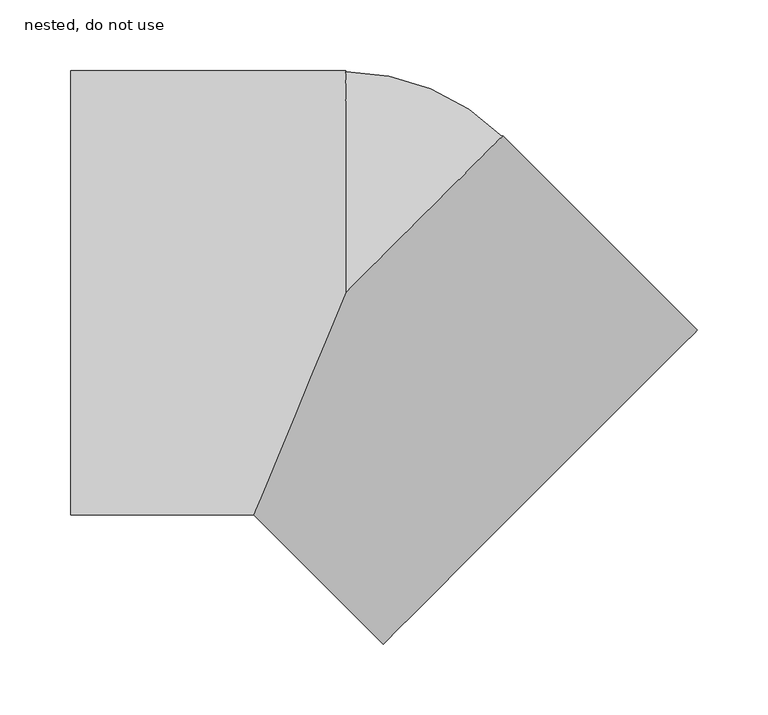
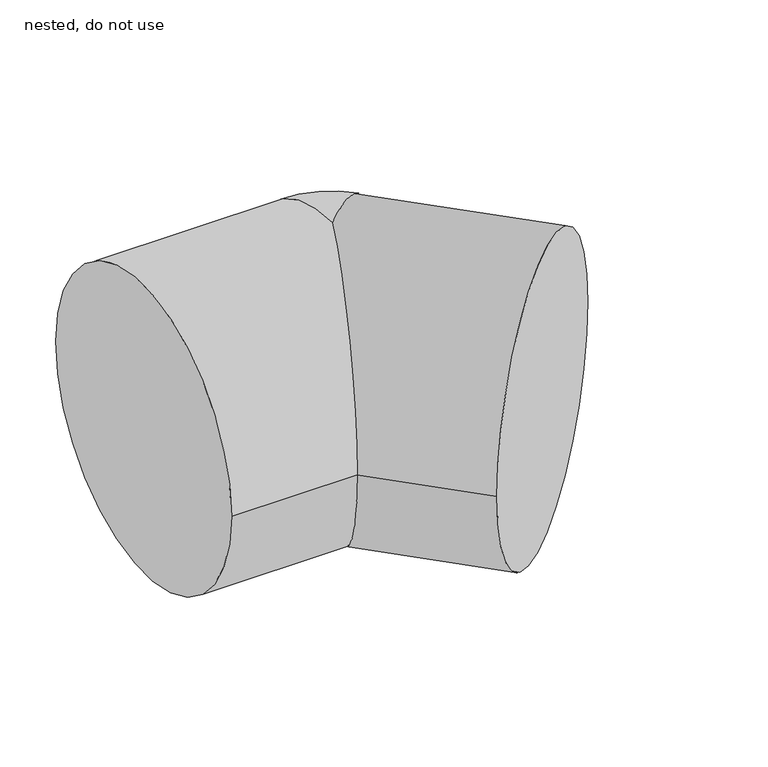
"""IFC4 building model written with IfcOpenShell, lengths in millimetres: pipe fitting geometry, NLRS_52_PIF_UN_HDPE elbow for branch assembly -SH_Akatherm : nested, do not use."""

import ifcopenshell
import ifcopenshell.guid

model = None  # the IFC model being written
_history = None  # IfcOwnerHistory: only IFC2X3 demands one
_inside = {}  # id of a spatial element -> (the spatial element, [elements in it])
_under = {}  # id of a project, library or spatial element -> (it, [spatial elements below it])
_declared = {}  # id of a project -> (the project, [libraries it declares])
_typed = {}  # id of a type object -> (the type object, [elements of that type])
_made_of = {}  # id of a material, layer set ... -> (it, [elements and type objects made of it])


def new_model(schema):
    """Start an empty IFC model of exactly this schema.

    Asked for "IFC4X3", IfcOpenShell would pick the latest addendum, in which some entities
    have other attributes; the version numbers below select the first issue.
    IFC2X3 requires an IfcOwnerHistory on every rooted entity: one is made here for all.
    """
    global model, _history
    if schema == "IFC4X3":
        model = ifcopenshell.file(schema_version=(4, 3, 0, 0))
    else:
        model = ifcopenshell.file(schema=schema)
    _inside.clear()
    _under.clear()
    _declared.clear()
    _typed.clear()
    _made_of.clear()
    _history = None
    if model.schema == "IFC2X3":
        org = make("IfcOrganization", Name="unknown")
        user = make(
            "IfcPersonAndOrganization",
            ThePerson=make("IfcPerson", FamilyName="unknown"),
            TheOrganization=org,
        )
        app = make(
            "IfcApplication",
            ApplicationDeveloper=org,
            Version="unknown",
            ApplicationFullName="unknown",
            ApplicationIdentifier="unknown",
        )
        _history = make(
            "IfcOwnerHistory",
            OwningUser=user,
            OwningApplication=app,
            ChangeAction="ADDED",
            CreationDate=0,
        )
    return model


def make(cls, **values):
    """One entity of the class cls with the attributes given. An attribute that is None is left unset."""
    return model.create_entity(
        cls, **{name: value for name, value in values.items() if value is not None}
    )


def rooted(cls, **values):
    """An entity with a GlobalId (a new one), such as an element, a storey or a relation."""
    return make(cls, GlobalId=ifcopenshell.guid.new(), OwnerHistory=_history, **values)


def si_unit(unit_type, name, prefix=None):
    """IfcSIUnit, for example si_unit("LENGTHUNIT", "METRE", prefix="MILLI")."""
    return make("IfcSIUnit", UnitType=unit_type, Prefix=prefix, Name=name)


def assignment(units):
    """IfcUnitAssignment: the units of a project."""
    return None if units is None else make("IfcUnitAssignment", Units=units)


def point(xyz):
    """IfcCartesianPoint."""
    return None if xyz is None else make("IfcCartesianPoint", Coordinates=xyz)


def direction(xyz):
    """IfcDirection."""
    return None if xyz is None else make("IfcDirection", DirectionRatios=xyz)


def frame(location, z_axis=None, x_axis=None):
    """IfcAxis2Placement3D, a coordinate frame: its origin and axes. An axis left out is left unset."""
    return make(
        "IfcAxis2Placement3D",
        Location=point(location),
        Axis=direction(z_axis),
        RefDirection=direction(x_axis),
    )


def origin():
    """The frame at (0, 0, 0) with its axes left unset."""
    return frame((0.0, 0.0, 0.0))


def place(relative_to, where):
    """IfcLocalPlacement: puts the frame where relative to a parent placement (None: the world)."""
    return make(
        "IfcLocalPlacement", PlacementRelTo=relative_to, RelativePlacement=where
    )


def context(
    kind, dimensions, precision=None, world=None, true_north=None, identifier=None
):
    """IfcGeometricRepresentationContext, for example the 3D "Model" context."""
    return make(
        "IfcGeometricRepresentationContext",
        ContextIdentifier=identifier,
        ContextType=kind,
        CoordinateSpaceDimension=dimensions,
        Precision=precision,
        WorldCoordinateSystem=world,
        TrueNorth=true_north,
    )


def project(units=None, contexts=None):
    """IfcProject with its units and contexts."""
    return rooted(
        "IfcProject",
        Name="project",
        RepresentationContexts=contexts,
        UnitsInContext=assignment(units),
    )


def spatial(cls, under=None, at=None, **own):
    """A site, building, storey or space (cls), placed at a placement, below another one or the project."""
    s = rooted(cls, ObjectPlacement=at, **own)
    if under is not None:
        _under.setdefault(under.id(), (under, []))[1].append(s)
    return s


def circle_curve(where, radius):
    """IfcCircle in the frame where."""
    return make("IfcCircle", Position=where, Radius=radius)


def ellipse_curve(where, semi_axis1, semi_axis2):
    """IfcEllipse in the frame where."""
    return make(
        "IfcEllipse", Position=where, SemiAxis1=semi_axis1, SemiAxis2=semi_axis2
    )


def trimmed(basis, trim1, trim2, sense, master):
    """IfcTrimmedCurve: the piece of a basis curve between two trims."""
    return make(
        "IfcTrimmedCurve",
        BasisCurve=basis,
        Trim1=trim1,
        Trim2=trim2,
        SenseAgreement=sense,
        MasterRepresentation=master,
    )


def shape(context_of_items, identifier, shape_type, items):
    """IfcShapeRepresentation: the items that make up one representation, for example the "Body"."""
    return make(
        "IfcShapeRepresentation",
        ContextOfItems=context_of_items,
        RepresentationIdentifier=identifier,
        RepresentationType=shape_type,
        Items=items,
    )


def source(mapping_origin, context_of_items, identifier, shape_type, items):
    """IfcRepresentationMap: a shape defined once, which mapped items show again and again."""
    return make(
        "IfcRepresentationMap",
        MappingOrigin=mapping_origin,
        MappedRepresentation=shape(context_of_items, identifier, shape_type, items),
    )


def transform(
    local_origin,
    x_axis=None,
    y_axis=None,
    z_axis=None,
    scale=None,
    scale2=None,
    scale3=None,
    uniform=True,
):
    """IfcCartesianTransformationOperator3D, or its non-uniform kind. x_axis, y_axis, z_axis: its Axis1, 2, 3."""
    if uniform:
        return make(
            "IfcCartesianTransformationOperator3D",
            Axis1=direction(x_axis),
            Axis2=direction(y_axis),
            LocalOrigin=point(local_origin),
            Scale=scale,
            Axis3=direction(z_axis),
        )
    return make(
        "IfcCartesianTransformationOperator3DnonUniform",
        Axis1=direction(x_axis),
        Axis2=direction(y_axis),
        LocalOrigin=point(local_origin),
        Scale=scale,
        Axis3=direction(z_axis),
        Scale2=scale2,
        Scale3=scale3,
    )


def mapped(mapping_source, mapping_target):
    """IfcMappedItem: shows the shape of a source again, moved by a transform."""
    return make(
        "IfcMappedItem", MappingSource=mapping_source, MappingTarget=mapping_target
    )


def made_of(thing, what):
    """Note that an element or type object is made of a material, layer set ...; save() writes the relation."""
    if what is not None:
        _made_of.setdefault(what.id(), (what, []))[1].append(thing)
    return thing


def element(
    cls,
    number,
    at=None,
    inside=None,
    cuts=None,
    type_object=None,
    material=None,
    context=None,
    identifier="Body",
    shape_type=None,
    held_by="IfcProductDefinitionShape",
    body=None,
    shapes=None,
    **own,
):
    """One element of the class cls, such as IfcWall. Its Tag is "e" and its number.

    at: its placement. inside: the storey or other place that contains it. cuts: it is an
    opening in that element (IfcRelVoidsElement). A single representation is given by context,
    identifier, shape_type and body (its items); several are given by shapes. held_by: the class
    of the entity that holds the representations. save() writes the other relations.
    """
    e = rooted(cls, Tag="e%d" % number, ObjectPlacement=at, **own)
    if body is not None:
        shapes = [shape(context, identifier, shape_type, body)]
    if shapes is not None:
        e.Representation = make(held_by, Representations=shapes)
    if inside is not None:
        _inside.setdefault(inside.id(), (inside, []))[1].append(e)
    if cuts is not None:
        rooted(
            "IfcRelVoidsElement", RelatingBuildingElement=cuts, RelatedOpeningElement=e
        )
    if type_object is not None:
        _typed.setdefault(type_object.id(), (type_object, []))[1].append(e)
    return made_of(e, material)


def aggregate(whole, parts):
    """IfcRelAggregates: a whole, such as a stair, and the parts it consists of."""
    return rooted("IfcRelAggregates", RelatingObject=whole, RelatedObjects=parts)


def save(model, path):
    """Write the relations noted so far, then the file.

    IfcRelAggregates (storeys below a building ...), IfcRelContainedInSpatialStructure (elements
    in a storey), IfcRelDefinesByType, IfcRelAssociatesMaterial and IfcRelDeclares: one each for
    every whole, place, type object, material and project.
    """
    for whole, parts in _under.values():
        aggregate(whole, parts)
    for where, things in _inside.values():
        rooted(
            "IfcRelContainedInSpatialStructure",
            RelatedElements=things,
            RelatingStructure=where,
        )
    for kind, things in _typed.values():
        rooted("IfcRelDefinesByType", RelatedObjects=things, RelatingType=kind)
    for what, things in _made_of.values():
        rooted("IfcRelAssociatesMaterial", RelatedObjects=things, RelatingMaterial=what)
    for by, libraries in _declared.values():
        rooted("IfcRelDeclares", RelatingContext=by, RelatedDefinitions=libraries)
    model.write(path)


def plane_surface(at):
    """IfcPlane: the flat surface through the origin of the frame at, square to its z axis."""
    return make("IfcPlane", Position=at)


def cylinder_surface(at, radius):
    """IfcCylindricalSurface: all points at the distance radius from the z axis of the frame at."""
    return make("IfcCylindricalSurface", Position=at, Radius=radius)


def revolved_surface(curve, axis_point, axis_direction):
    """IfcSurfaceOfRevolution: the curve turned about the line through axis_point along axis_direction."""
    return make(
        "IfcSurfaceOfRevolution",
        SweptCurve=make("IfcArbitraryOpenProfileDef", ProfileType="CURVE", Curve=curve),
        AxisPosition=make("IfcAxis1Placement", Location=point(axis_point), Axis=direction(axis_direction)),
    )


def advanced_brep(points, edges, surfaces, faces):
    """IfcAdvancedBrep: a solid bounded by faces that lie on surfaces and meet in shared edges.

    An edge is (start, end): straight between two places in points (the first is 0);
    or (start, end, curve); or (start, end, curve, False) where it runs against its curve.
    A face is (place in surfaces, loops), or (place, loops, False) where it looks against
    its surface's normal. A loop lists edges by number (the first is 1), with a minus sign
    where the edge is run from its end to its start. The first loop is the outer one.
    """
    corners = [point(p) for p in points]
    vertices = [make("IfcVertexPoint", VertexGeometry=c) for c in corners]
    made = []
    for start, end, *more in edges:
        made.append(
            make(
                "IfcEdgeCurve",
                EdgeStart=vertices[start],
                EdgeEnd=vertices[end],
                EdgeGeometry=more[0] if more else make("IfcPolyline", Points=[corners[start], corners[end]]),
                SameSense=more[1] if len(more) > 1 else True,
            )
        )
    hull = []
    for where, loops, *sense in faces:
        bounds = []
        for j, loop in enumerate(loops):
            ring = [make("IfcOrientedEdge", EdgeElement=made[abs(k) - 1], Orientation=k > 0) for k in loop]
            bounds.append(
                make(
                    "IfcFaceOuterBound" if j == 0 else "IfcFaceBound",
                    Bound=make("IfcEdgeLoop", EdgeList=ring),
                    Orientation=True,
                )
            )
        hull.append(make("IfcAdvancedFace", Bounds=bounds, FaceSurface=surfaces[where], SameSense=sense[0] if sense else True))
    return make("IfcAdvancedBrep", Outer=make("IfcClosedShell", CfsFaces=hull))


def nested_do_not_use_785704b3(model_context):
    return source(origin(), model_context, "Body", "AdvancedBrep", [
        advanced_brep(
        [(-195.0, 157.5, 0.0), (-195.0, -157.5, 0.0), (0.0, 157.5, 0.0), (0.0, 0.0, -157.5), (-65.2386361, -157.5, 0.0), (0.0, 0.0, 157.5), (249.2551404, -26.5165043, 0.0), (26.5165043, -249.2551404, 0.0), (111.369318, 111.369318, 0.0)],
        [
            (0, 1, circle_curve(frame((-195.0, 0.0, 0.0), z_axis=(-1.0, 0.0, 0.0), x_axis=(0.0, -1.0, 0.0)), 157.5)),
            (1, 0, circle_curve(frame((-195.0, 0.0, 0.0), z_axis=(-1.0, 0.0, 0.0), x_axis=(0.0, -1.0, 0.0)), 157.5)),
            (0, 2),
            (2, 3, circle_curve(frame((0.0, 0.0, 0.0), z_axis=(-1.0, 0.0, 0.0), x_axis=(0.0, -1.0, 0.0)), 157.5)),
            (3, 4, ellipse_curve(frame((0.0, 0.0, 0.0), z_axis=(-0.923879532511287, 0.3826834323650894, 0.0), x_axis=(0.3826834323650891, 0.9238795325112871, 0.0)), 170.4767715, 157.5)),
            (4, 1),
            (4, 5, ellipse_curve(frame((0.0, 0.0, 0.0), z_axis=(-0.923879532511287, 0.3826834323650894, 0.0), x_axis=(0.3826834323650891, 0.9238795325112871, 0.0)), 170.4767715, 157.5)),
            (5, 2, circle_curve(frame((0.0, 0.0, 0.0), z_axis=(-1.0, 0.0, 0.0), x_axis=(0.0, -1.0, 0.0)), 157.5)),
            (6, 7, circle_curve(frame((137.8858223, -137.8858223, 0.0), z_axis=(0.7071067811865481, -0.7071067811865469, 0.0), x_axis=(-0.7071067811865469, -0.7071067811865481, 0.0)), 157.5)),
            (7, 6, circle_curve(frame((137.8858223, -137.8858223, 0.0), z_axis=(0.7071067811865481, -0.7071067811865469, 0.0), x_axis=(-0.7071067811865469, -0.7071067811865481, 0.0)), 157.5)),
            (6, 8),
            (8, 5, circle_curve(frame((0.0, 0.0, 0.0), z_axis=(0.7071067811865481, -0.7071067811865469, 0.0), x_axis=(-0.7071067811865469, -0.7071067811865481, 0.0)), 157.5)),
            (4, 7),
            (3, 8, circle_curve(frame((0.0, 0.0, 0.0), z_axis=(0.7071067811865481, -0.7071067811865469, 0.0), x_axis=(-0.7071067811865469, -0.7071067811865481, 0.0)), 157.5)),
        ],
        [
            plane_surface(frame((-195.0, -157.5, 0.0), z_axis=(-1.0, 0.0, 0.0), x_axis=(0.0, 0.0, -1.0))),
            cylinder_surface(frame((-195.0, 0.0, 0.0), z_axis=(1.0, 0.0, 0.0), x_axis=(0.0, -1.0, 0.0)), 157.5),
            plane_surface(frame((137.8858223, -137.8858223, 0.0), z_axis=(0.7071067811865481, -0.7071067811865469, 0.0), x_axis=(0.0, 0.0, 1.0))),
            cylinder_surface(frame((0.0, 0.0, 0.0), z_axis=(-0.7071067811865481, 0.7071067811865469, 0.0), x_axis=(-0.7071067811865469, -0.7071067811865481, 0.0)), 157.5),
            revolved_surface(trimmed(ellipse_curve(frame((0.0, 0.0, 0.0), z_axis=(1.0, 0.0, 0.0), x_axis=(0.0, -1.0, 0.0)), 157.5, 157.5), [point((0.0, 0.0, -157.5))], [point((0.0, 0.0, 157.5))], True, "CARTESIAN"), (0.0, 0.0, 237.5), (0.0, 0.0, 1.0)),
        ],
        [
            (0, [[1, 2]]),
            (1, [[3, 4, 5, 6, -1]]),
            (1, [[-6, 7, 8, -3, -2]]),
            (2, [[9, 10]]),
            (3, [[11, 12, -7, 13, -9]]),
            (3, [[-13, -5, 14, -11, -10]]),
            (4, [[-14, -4, -8, -12]]),
        ],
    ),
    ])


if __name__ == "__main__":
    model = new_model("IFC4")
    model_context = context("Model", 3, world=origin())
    ifc_project = project(units=[si_unit("LENGTHUNIT", "METRE", prefix="MILLI")], contexts=[model_context])
    site = spatial("IfcSite", under=ifc_project)
    building = spatial("IfcBuilding", under=site)
    placement = place(None, origin())
    nested_do_not_use_shape = nested_do_not_use_785704b3(model_context)
    element("IfcPipeFitting", 1, ObjectType="NLRS_52_PIF_UN_HDPE elbow for branch assembly -SH_Akatherm : nested, do not use", at=placement, inside=building, context=model_context, shape_type="MappedRepresentation", body=[
        mapped(nested_do_not_use_shape, transform((0.0, 0.0, 0.0), x_axis=(1.0, 0.0, 0.0), y_axis=(0.0, 1.0, 0.0), z_axis=(0.0, 0.0, 1.0))),
    ])
    save(model, "model.ifc")
